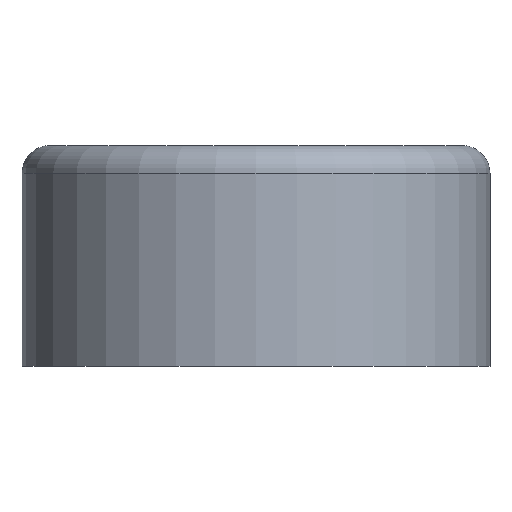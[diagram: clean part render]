
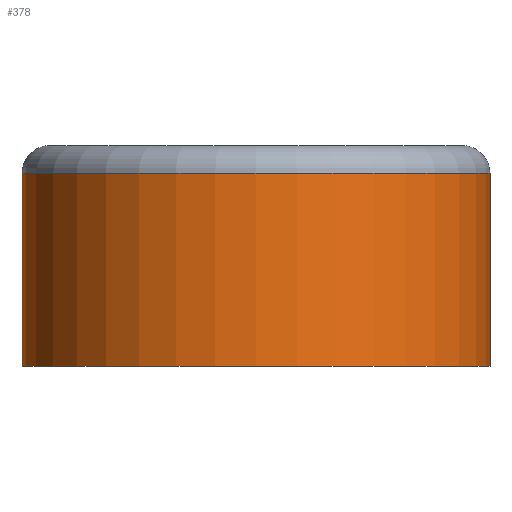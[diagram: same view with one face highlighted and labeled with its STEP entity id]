
A CAD part, front view. The second image highlights one B-rep face of the part: STEP entity #378.
In plain terms, the highlighted cylindrical face has radius 31.5 mm (diameter 63 mm), a partial arc.
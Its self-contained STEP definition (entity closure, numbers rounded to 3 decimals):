
#5 = FACE_OUTER_BOUND ( 'NONE', #334, .T. ) ;
#7 = CARTESIAN_POINT ( 'NONE',  ( 0., 0., 29.7 ) ) ;
#10 = CARTESIAN_POINT ( 'NONE',  ( 31.5, 0., 26. ) ) ;
#22 = CARTESIAN_POINT ( 'NONE',  ( 0., 0., 26. ) ) ;
#25 = CIRCLE ( 'NONE', #143, 31.5 ) ;
#54 = CARTESIAN_POINT ( 'NONE',  ( 31.5, 0., 29.7 ) ) ;
#73 = VERTEX_POINT ( 'NONE', #275 ) ;
#79 = CARTESIAN_POINT ( 'NONE',  ( -31.5, 0., 26. ) ) ;
#82 = CARTESIAN_POINT ( 'NONE',  ( 0., 0., 0. ) ) ;
#86 = EDGE_CURVE ( 'NONE', #73, #297, #194, .T. ) ;
#93 = LINE ( 'NONE', #54, #156 ) ;
#101 = CARTESIAN_POINT ( 'NONE',  ( 31.5, 0., 0. ) ) ;
#102 = ORIENTED_EDGE ( 'NONE', *, *, #86, .T. ) ;
#104 = ORIENTED_EDGE ( 'NONE', *, *, #215, .F. ) ;
#121 = DIRECTION ( 'NONE',  ( 0., 0., 1. ) ) ;
#143 = AXIS2_PLACEMENT_3D ( 'NONE', #22, #264, #323 ) ;
#146 = AXIS2_PLACEMENT_3D ( 'NONE', #82, #121, #312 ) ;
#149 = CYLINDRICAL_SURFACE ( 'NONE', #164, 31.5 ) ;
#152 = VERTEX_POINT ( 'NONE', #10 ) ;
#156 = VECTOR ( 'NONE', #317, 1000. ) ;
#164 = AXIS2_PLACEMENT_3D ( 'NONE', #7, #277, #367 ) ;
#170 = LINE ( 'NONE', #272, #326 ) ;
#194 = CIRCLE ( 'NONE', #146, 31.5 ) ;
#215 = EDGE_CURVE ( 'NONE', #152, #297, #93, .T. ) ;
#223 = EDGE_CURVE ( 'NONE', #152, #389, #25, .T. ) ;
#246 = ORIENTED_EDGE ( 'NONE', *, *, #223, .T. ) ;
#264 = DIRECTION ( 'NONE',  ( 0., 0., -1. ) ) ;
#272 = CARTESIAN_POINT ( 'NONE',  ( -31.5, 0., 29.7 ) ) ;
#275 = CARTESIAN_POINT ( 'NONE',  ( -31.5, 0., 0. ) ) ;
#277 = DIRECTION ( 'NONE',  ( 0., 0., -1. ) ) ;
#297 = VERTEX_POINT ( 'NONE', #101 ) ;
#312 = DIRECTION ( 'NONE',  ( 1., 0., 0. ) ) ;
#317 = DIRECTION ( 'NONE',  ( 0., 0., -1. ) ) ;
#322 = ORIENTED_EDGE ( 'NONE', *, *, #407, .T. ) ;
#323 = DIRECTION ( 'NONE',  ( 1., 0., 0. ) ) ;
#326 = VECTOR ( 'NONE', #338, 1000. ) ;
#334 = EDGE_LOOP ( 'NONE', ( #104, #246, #322, #102 ) ) ;
#338 = DIRECTION ( 'NONE',  ( 0., 0., -1. ) ) ;
#367 = DIRECTION ( 'NONE',  ( -1., 0., 0. ) ) ;
#378 = ADVANCED_FACE ( 'NONE', ( #5 ), #149, .T. ) ;
#389 = VERTEX_POINT ( 'NONE', #79 ) ;
#407 = EDGE_CURVE ( 'NONE', #389, #73, #170, .T. ) ;
